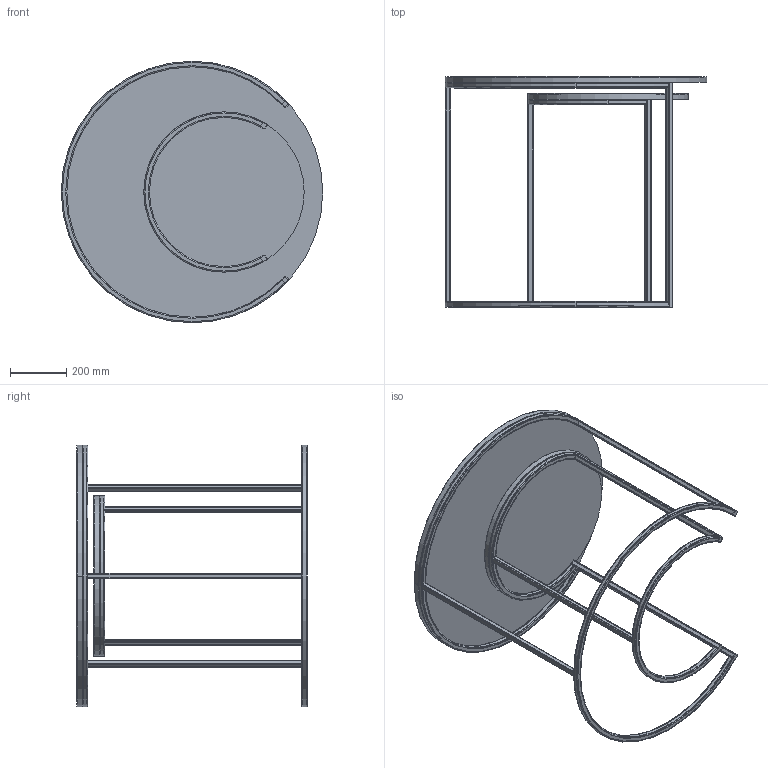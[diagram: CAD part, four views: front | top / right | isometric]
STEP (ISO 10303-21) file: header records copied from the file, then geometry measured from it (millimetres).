
FILE_DESCRIPTION (( 'STEP AP214' ), '1' );
FILE_NAME ('MASA.STEP', '2023-07-14T08:01:25', ( '' ), ( '' ), 'SwSTEP 2.0', 'SolidWorks 2022', '' );
FILE_SCHEMA (( 'AUTOMOTIVE_DESIGN' ));
Length unit declared in the file: millimetre
Products named in the file (11): Parça5_Varsayılan<Makinelenmiş Olarak>; masa dış; masa iç; ÜST TABLA; Parça2_Varsayılan<Makinelenmiş Olarak>; MASA; Parça6_Varsayılan<Makinelenmiş Olarak>; Parça3_Varsayılan<Makinelenmiş Olarak>; Parça7_Varsayılan<Makinelenmiş Olarak>; Parça4_Varsayılan<Makinelenmiş Olarak>; ÜST TABLA 2
Assembly tree (14 placements, depth 3):
  MASA
    masa dış
      Parça2_Varsayılan<Makinelenmiş Olarak>  x2
      Parça3_Varsayılan<Makinelenmiş Olarak>  x2
      Parça4_Varsayılan<Makinelenmiş Olarak>
      ÜST TABLA 2
    masa iç
      Parça5_Varsayılan<Makinelenmiş Olarak>  x2
      Parça6_Varsayılan<Makinelenmiş Olarak>  x2
      Parça7_Varsayılan<Makinelenmiş Olarak>
      ÜST TABLA
Bounding box: 930 x 820 x 930 mm (x, y, z)
Volume: 20176466.5 mm3; surface area: 3453947.7 mm2
Topology: 20 solids, 20 shells, 368 faces, 916 edges, 588 vertices
Faces by surface type: plane 136, cylinder 132, torus 100
Entity records: 6782 total; most frequent: DIRECTION 1242, CARTESIAN_POINT 1075, ORIENTED_EDGE 1032, EDGE_CURVE 516, AXIS2_PLACEMENT_3D 499, VERTEX_POINT 332, CIRCLE 272, VECTOR 244
